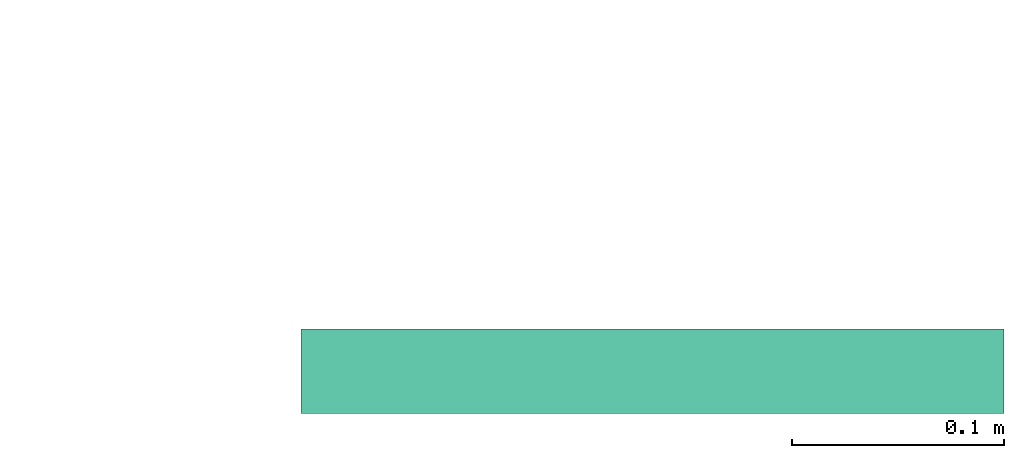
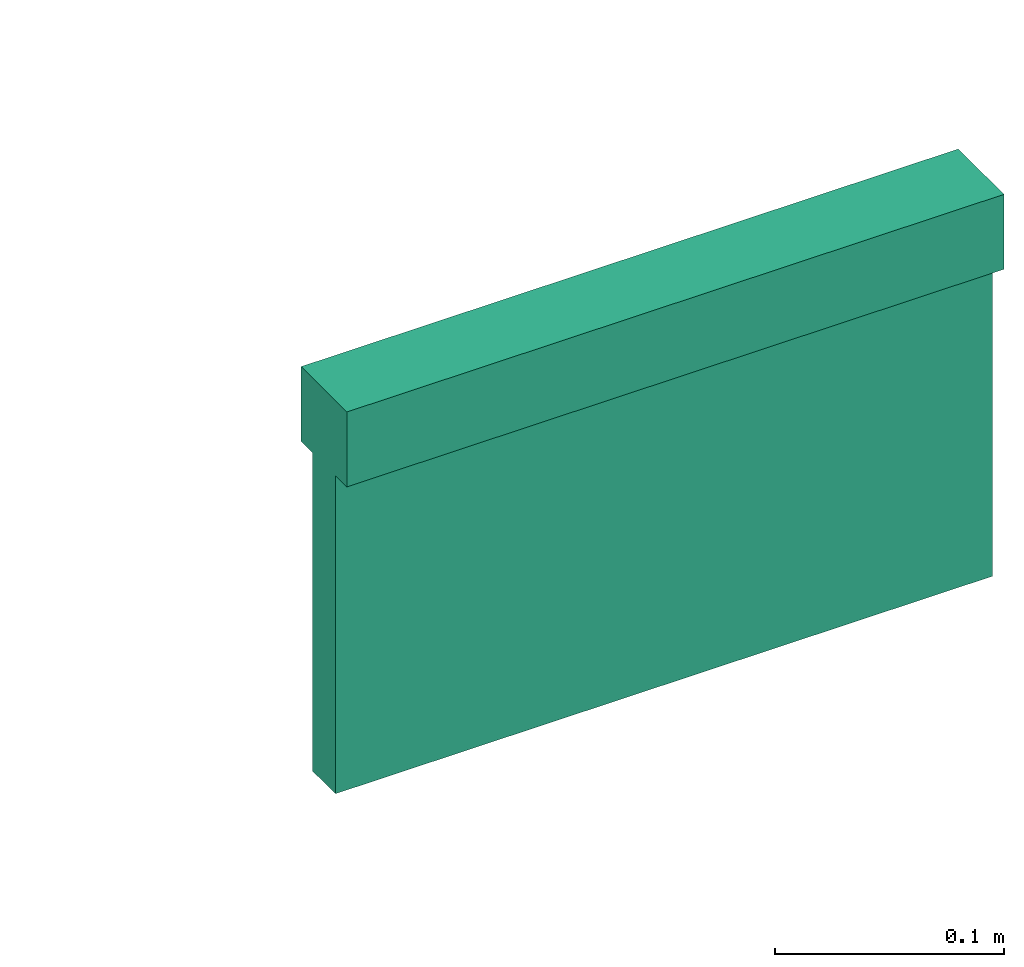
# One storey, part 2 of 2: 1 flow terminal.
"""IFC2X3 building model written with IfcOpenShell, lengths in millimetres."""

from ifc_helpers import new_model, entity, si_unit, converted_unit, derived_unit, direction, frame, frame_2d, origin, origin_2d_with_axis, place, context, subcontext, project, spatial, polyline, circle_curve, parameter, trimmed, segment, composite_curve, circle, outline, extrude, source, transform, mapped, material, material_list, type_object, element, save


model = new_model("IFC2X3")

# Units and contexts
model_context = context("Model", 3, precision=0.01, world=frame((0.0, 4.29681676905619e-09, 0.0)), true_north=direction((4.01073788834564e-13, 1.0)))
plan_context = context("Plan", 3, precision=0.01, world=frame((0.0, 4.29681676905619e-09, 0.0)), true_north=direction((4.01073788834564e-13, 1.0)))
body_context = subcontext(model_context, "Body", "Model", "MODEL_VIEW")
ifc_project = project(units=[converted_unit("PLANEANGLEUNIT", "DEGREE", entity("IfcPositiveLengthMeasure", 0.0174532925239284), si_unit("PLANEANGLEUNIT", "RADIAN"), dimensions=[0, 0, 0, 0, 0, 0, 0]), si_unit("AREAUNIT", "SQUARE_METRE"), si_unit("LENGTHUNIT", "METRE", prefix="MILLI"), si_unit("MASSUNIT", "GRAM", prefix="KILO"), si_unit("POWERUNIT", "WATT"), si_unit("PRESSUREUNIT", "PASCAL", prefix="KILO"), si_unit("FORCEUNIT", "NEWTON", prefix="KILO"), si_unit("ELECTRICVOLTAGEUNIT", "VOLT"), si_unit("ELECTRICCURRENTUNIT", "AMPERE"), si_unit("THERMODYNAMICTEMPERATUREUNIT", "DEGREE_CELSIUS"), si_unit("TIMEUNIT", "SECOND"), si_unit("VOLUMEUNIT", "CUBIC_METRE"), derived_unit("LINEARVELOCITYUNIT", [(si_unit("LENGTHUNIT", "METRE"), 1), (si_unit("TIMEUNIT", "SECOND"), -1)]), derived_unit("VOLUMETRICFLOWRATEUNIT", [(si_unit("VOLUMEUNIT", "CUBIC_METRE"), 1), (si_unit("TIMEUNIT", "SECOND"), -1)]), derived_unit("THERMALTRANSMITTANCEUNIT", [(si_unit("POWERUNIT", "WATT"), 1), (si_unit("THERMODYNAMICTEMPERATUREUNIT", "KELVIN"), -1), (si_unit("AREAUNIT", "SQUARE_METRE"), -1)]), derived_unit("SOUNDPRESSUREUNIT", [(si_unit("PRESSUREUNIT", "PASCAL"), 1)])], contexts=[model_context, plan_context])

# Site, building, storey
site_placement = place(None, frame((0.0, -4.29681676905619e-09, 0.0), z_axis=(0.0, 0.0, 1.0), x_axis=(1.0, 0.0, 0.0)))
site = spatial("IfcSite", under=ifc_project, at=site_placement, Name="Default", CompositionType="ELEMENT")
building_placement = place(site_placement, frame((0.0, 4.29681676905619e-09, 0.0), z_axis=(0.0, 0.0, 1.0), x_axis=(1.0, 0.0, 0.0)))
building = spatial("IfcBuilding", under=site, at=building_placement, CompositionType="ELEMENT")
storey_placement = place(building_placement, frame((0.0, 0.0, 204000.0), z_axis=(0.0, 0.0, 1.0), x_axis=(1.0, 0.0, 0.0)))
storey = spatial("IfcBuildingStorey", under=building, at=storey_placement, Name="Nivå D", CompositionType="ELEMENT", Elevation=204000.0)

# Flow terminal
ifc_material_1 = material(Name="<Unnamed>")
ifc_material_2 = material(Name="Light Source Hvit")
ifc_material_3 = material(Name="Light Source Grønn")
ifc_material_list = material_list([ifc_material_1, ifc_material_2, ifc_material_3])
light_fixture_type = type_object("IfcLightFixtureType", Name="IB7330 Markeringslys ensidig 30 meter leseavstand innfelt:IB7330 Zumtobel Puresign/Comsign 150 ED NDA", PredefinedType="NOTDEFINED", material=ifc_material_list)
shared_shape = source(origin(), body_context, "Body", "SweptSolid", [
    extrude(outline(polyline([(-20.0, -32.4999999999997), (-20.0, -72.5000000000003), (20.0, -72.5000000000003), (20.0, -32.4999999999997), (10.0, -32.4999999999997), (10.0, 137.5), (-10.0, 137.5), (-10.0, -32.4999999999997), (-20.0, -32.4999999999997)])), frame((-166.0, 22.0, -72.5000000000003), z_axis=(-1.0, 0.0, 0.0), x_axis=(0.0, 1.0, 0.0)), (0.0, 0.0, -1.0), 332.0),
    extrude(outline(polyline([(-9.94071838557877, -40.8929275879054), (20.65829993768, -40.8929275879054), (61.5512275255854, 0.0), (20.6582999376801, 40.8929275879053), (-9.94071838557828, 40.8929275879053), (17.4135315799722, 13.5386776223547), (-58.9067268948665, 13.5386776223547), (-58.9067268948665, -13.5386776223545), (17.4135315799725, -13.5386776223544), (-9.94071838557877, -40.8929275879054)])), frame((-68.0, 32.0, -128.40431218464), z_axis=(0.0, 1.0, 0.0), x_axis=(0.0, 0.0, -1.0)), (0.0, 0.0, 1.0), 2.0),
    extrude(outline(composite_curve([segment(trimmed(circle_curve(origin_2d_with_axis(), 70.0), [parameter(180.0)], [parameter(360.0)], True, "PARAMETER"), True, "CONTINUOUS"), segment(trimmed(circle_curve(origin_2d_with_axis(), 70.0), [parameter(0.0)], [parameter(180.0)], True, "PARAMETER"), True, "CONTINUOUS")], self_intersect=False), holes=[polyline([(60.2289772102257, 0.0), (19.3360496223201, -40.8929275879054), (-11.2629687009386, -40.8929275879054), (16.0912812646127, -13.5386776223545), (-60.2289772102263, -13.5386776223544), (-60.2289772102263, 13.5386776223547), (16.0912812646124, 13.5386776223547), (-11.262968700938, 40.8929275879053), (19.3360496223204, 40.8929275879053), (60.2289772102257, 0.0)])]), frame((-68.0, 32.0, -129.7265625), z_axis=(0.0, 1.0, 0.0), x_axis=(0.0, 0.0, -1.0)), (0.0, 0.0, 1.0), 2.0),
    extrude(outline(polyline([(-80.0, -155.0), (80.0, -155.0), (80.0, 155.0), (-80.0, 155.0), (-80.0, -155.0)]), holes=[polyline([(-46.0, 68.0), (-46.0, 110.0), (-34.0, 110.0), (-34.0, 80.0), (-2.58359213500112, 80.0), (26.0, 65.7082039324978), (26.0, 78.6028577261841), (8.91302546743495, 88.8550424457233), (15.0869745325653, 99.1449575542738), (38.0, 85.3971422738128), (38.0, 46.0), (36.9923017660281, 42.6717988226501), (27.2111025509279, 28.0), (14.0, 28.0), (14.0, 10.0), (2.0, 10.0), (2.0, 40.0), (22.2792226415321, 40.0), (-6.84828493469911, 58.204692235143), (-54.5419187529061, 29.5474658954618), (-60.8224348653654, 40.0), (-14.2226093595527, 68.0), (-46.0, 68.0)]), composite_curve([segment(trimmed(circle_curve(frame_2d((52.0, 42.0), x_axis=(0.0, -1.0)), 14.0), [parameter(3.05333249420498e-13)], [parameter(180.0)], True, "PARAMETER"), False, "CONTINUOUS"), segment(trimmed(circle_curve(frame_2d((52.0, 42.0), x_axis=(0.0, -1.0)), 14.0), [parameter(180.0)], [parameter(5.08888749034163e-14)], True, "PARAMETER"), False, "CONTINUOUS")], self_intersect=False), composite_curve([segment(trimmed(circle_curve(frame_2d((0.0, -68.0), x_axis=(0.0, -1.0)), 70.0), [parameter(3.05333249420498e-13)], [parameter(180.0)], True, "PARAMETER"), False, "CONTINUOUS"), segment(trimmed(circle_curve(frame_2d((0.0, -68.0), x_axis=(0.0, -1.0)), 70.0), [parameter(180.0)], [parameter(0.0)], True, "PARAMETER"), False, "CONTINUOUS")], self_intersect=False)]), frame((0.0, 32.0, -129.726562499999), z_axis=(0.0, 1.0, 0.0), x_axis=(0.0, 0.0, 1.0)), (0.0, 0.0, 1.0), 2.0),
    extrude(circle(Radius=14.0, at=frame_2d((5.44757758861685e-29, -1.69197988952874e-14), x_axis=(1.0, 0.0))), frame((42.0, 32.0, -77.7265624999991), z_axis=(0.0, 1.0, 0.0), x_axis=(-1.0, 0.0, 0.0)), (0.0, 0.0, 1.0), 2.0),
    extrude(outline(polyline([(32.7028994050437, -50.6303563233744), (44.7028994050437, -50.6303563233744), (44.7028994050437, -8.63035632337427), (12.9255087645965, -8.63035632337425), (59.5253342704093, 19.3696436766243), (53.2448181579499, 29.8221777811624), (5.55118433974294, 1.16495144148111), (-23.5763232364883, 19.3696436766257), (-3.29710059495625, 19.3696436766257), (-3.29710059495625, 49.3696436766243), (-15.2971005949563, 49.3696436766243), (-15.2971005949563, 31.3696436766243), (-28.508203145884, 31.3696436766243), (-38.2894023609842, 16.6978448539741), (-39.2971005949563, 13.3696436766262), (-39.2971005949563, -26.0274985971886), (-16.3840751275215, -39.7753138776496), (-10.2101260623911, -29.4853987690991), (-27.2971005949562, -19.2332140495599), (-27.2971005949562, -6.33856025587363), (1.28649154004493, -20.6303563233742), (32.7028994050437, -20.6303563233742), (32.7028994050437, -50.6303563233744)])), frame((59.369643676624, 32.0, -131.023663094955), z_axis=(0.0, 1.0, 0.0), x_axis=(0.0, 0.0, -1.0)), (0.0, 0.0, 1.0), 2.0),
])
flow_terminal_placement = place(storey_placement, frame((608295.492151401, 398012.096615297, 2370.0), z_axis=(0.0, 0.0, 1.0), x_axis=(1.0, 0.0, 0.0)))
element("IfcFlowTerminal", 1, at=flow_terminal_placement, inside=storey, type_object=light_fixture_type, material=ifc_material_list, Name="IB7330 Markeringslys ensidig 30 meter leseavstand innfelt:IB7330 Zumtobel Puresign/Comsign 150 ED NDA", ObjectType="IB7330 Markeringslys ensidig 30 meter leseavstand innfelt:IB7330 Zumtobel Puresign/Comsign 150 ED NDA", context=body_context, shape_type="MappedRepresentation", body=[
    mapped(shared_shape, transform((0.0, 0.0, 0.0), scale=1.0)),
])

save(model, "model.ifc")
